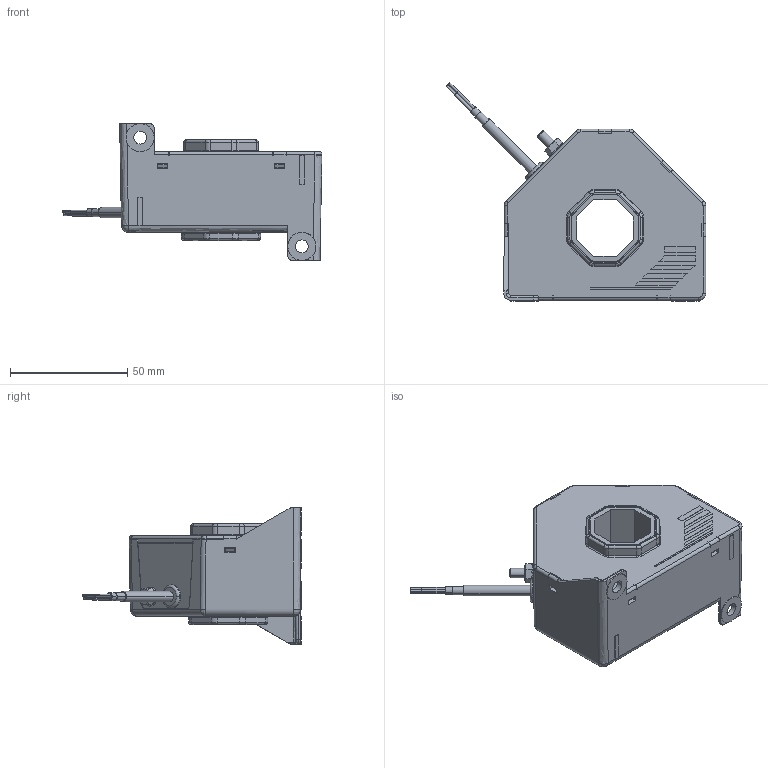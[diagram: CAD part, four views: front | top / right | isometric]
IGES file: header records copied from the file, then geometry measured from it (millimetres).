
Start section: Elysium IGES Interface
Global section: file name: \\Gva50\sd-data\Etudes\GVu\Serie_blackbox\LA 305-S_SP19_blackbox\LA 305-S_SP19_blackbox.igs; native system: SolidDesigner 16.00A  16-Aug-2008; preprocessor: CoCreate IGES_3D V2.2; author: Unknown; organization: Unknown; date: 20090316.080053; units: millimetre
Bounding box: 110.79 x 93.27 x 58.4 mm (x, y, z)
Volume: 166788.9 mm3; surface area: 27967.9 mm2
Topology: 6 solids, 15 shells, 1069 faces, 2782 edges, 1799 vertices
Faces by surface type: bspline 1069
